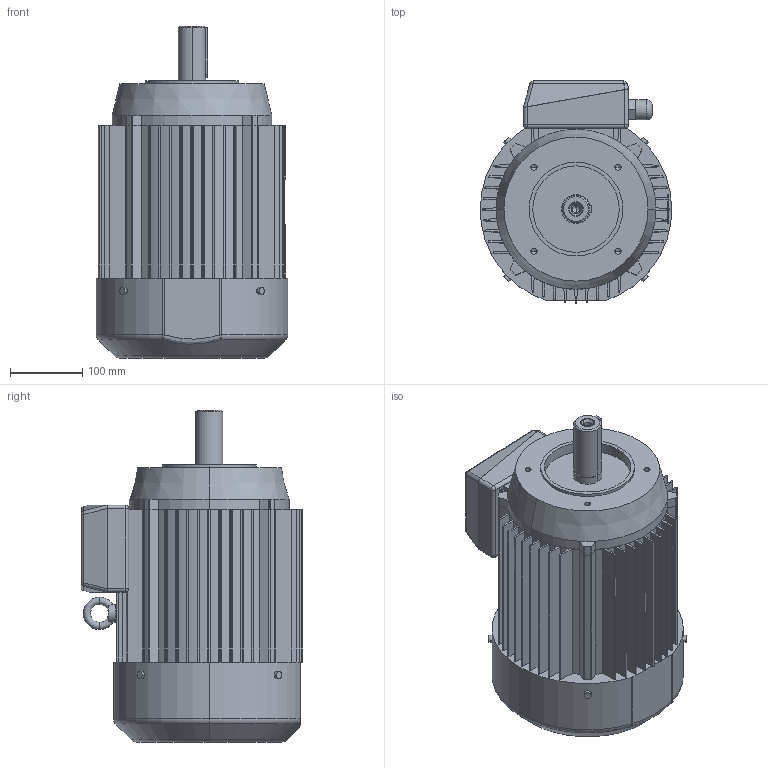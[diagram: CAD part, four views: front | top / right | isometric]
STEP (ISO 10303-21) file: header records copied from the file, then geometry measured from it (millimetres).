
FILE_DESCRIPTION (( 'STEP AP203' ), '1' );
FILE_NAME ('2SIEK132S2A,6-B14-C2.STEP', '2013-01-07T13:22:18', ( 'INDUKTA' ), ( 'CANTONI MOTOR' ), 'SwSTEP 2.0', 'SolidWorks 2003064', '' );
FILE_SCHEMA (( 'CONFIG_CONTROL_DESIGN' ));
Length unit declared in the file: millimetre
Products named in the file (1): 2SIEK132S2A,6-B14-C2
Bounding box: 266 x 307.99 x 461 mm (x, y, z)
Volume: 17899317.7 mm3; surface area: 920119.9 mm2
Topology: 12 solids, 12 shells, 395 faces, 1044 edges, 655 vertices
Faces by surface type: cylinder 184, plane 165, cone 22, torus 13, sphere 10, bspline 1
Entity records: 12934 total; most frequent: CARTESIAN_POINT 2941, DIRECTION 2178, ORIENTED_EDGE 2048, EDGE_CURVE 1024, AXIS2_PLACEMENT_3D 796, VERTEX_POINT 655, LINE 586, VECTOR 586
